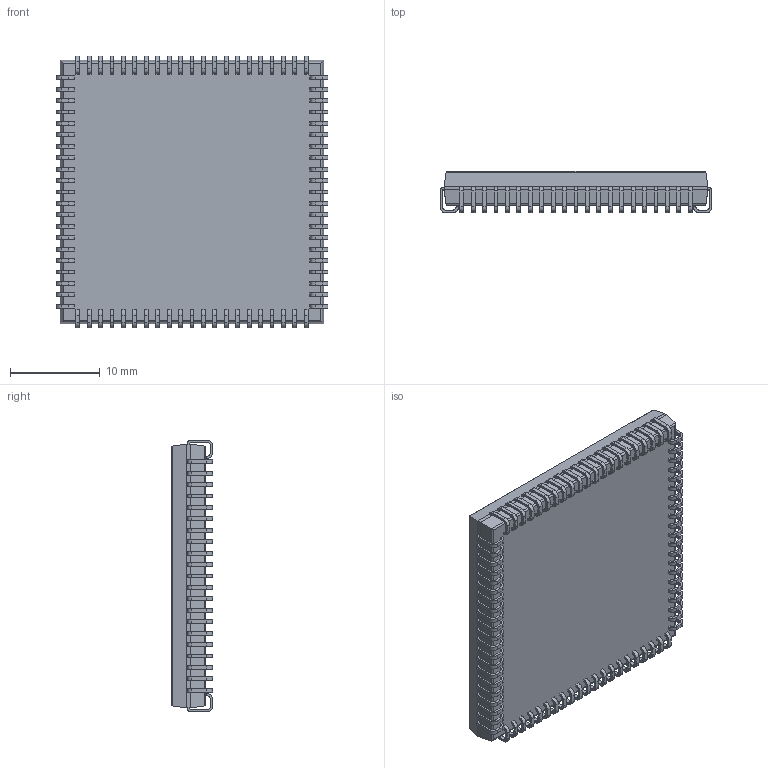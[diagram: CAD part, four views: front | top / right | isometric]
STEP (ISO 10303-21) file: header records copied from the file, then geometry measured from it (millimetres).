
FILE_DESCRIPTION (( 'STEP AP214' ), '1' );
FILE_NAME ( 'PLCC127P3022X3022X457-84.STEP', '2013-08-13T11:03:56', ( '' ), ( '' ), 'FPX Expert 2013', 'PCB Libraries', '' );
FILE_SCHEMA (( 'AUTOMOTIVE_DESIGN' ));
Length unit declared in the file: millimetre
Products named in the file (1): PLCC127P3022X3022X457-84
Bounding box: 30.23 x 4.57 x 30.23 mm (x, y, z)
Volume: 3227.1 mm3; surface area: 2635.6 mm2
Topology: 85 solids, 85 shells, 1537 faces, 3746 edges, 2380 vertices
Faces by surface type: plane 1023, cylinder 512, torus 2
Entity records: 52324 total; most frequent: CARTESIAN_POINT 8360, DIRECTION 8164, ORIENTED_EDGE 8164, EDGE_CURVE 4082, VECTOR 3060, LINE 3060, VERTEX_POINT 2716, AXIS2_PLACEMENT_3D 2552
